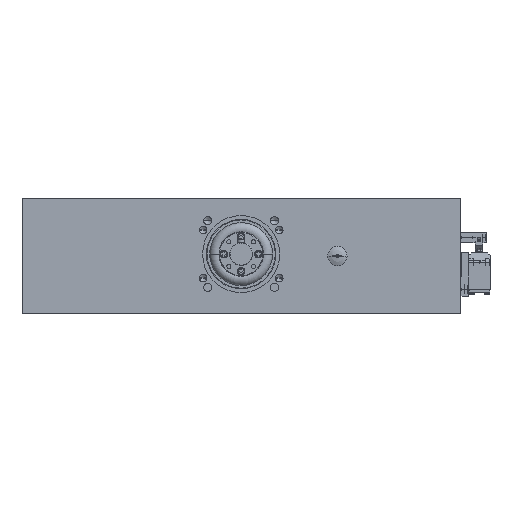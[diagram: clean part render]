
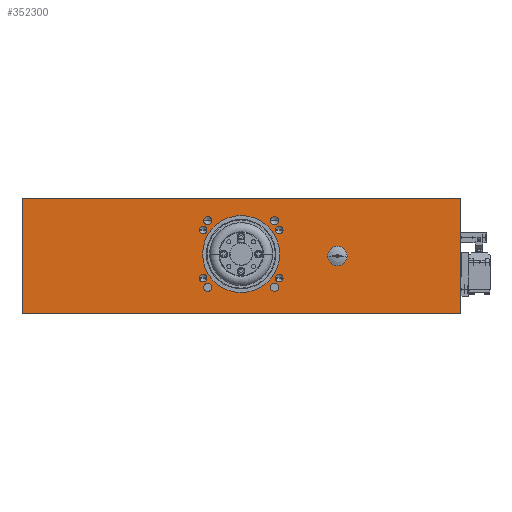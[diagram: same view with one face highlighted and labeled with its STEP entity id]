
A CAD part, front view. The second image highlights one B-rep face of the part: STEP entity #352300.
In plain terms, the highlighted planar face has unit normal (0, -1, 0) as drawn and (-1, 0, 0) by its records, which use the part's own axes.
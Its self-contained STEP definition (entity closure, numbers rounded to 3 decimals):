
#347130=CARTESIAN_POINT('',(-120.,1371.483,-49.828));
#347140=VERTEX_POINT('',#347130);
#347170=CARTESIAN_POINT('',(-120.,1371.483,-132.828));
#347180=DIRECTION('',(0.,0.,1.));
#347190=VECTOR('',#347180,1.);
#347200=LINE('',#347170,#347190);
#347210=CARTESIAN_POINT('',(-120.,1371.483,-169.628));
#347220=VERTEX_POINT('',#347210);
#347230=EDGE_CURVE('',#347220,#347140,#347200,.T.);
#350500=CARTESIAN_POINT('',(-120.,1371.483,-132.828));
#350510=DIRECTION('',(-1.,0.,0.));
#350520=DIRECTION('',(0.,1.,0.));
#350530=AXIS2_PLACEMENT_3D('',#350500,#350510,#350520);
#350540=PLANE('',#350530);
#350550=CARTESIAN_POINT('',(-120.,1004.669,-49.828));
#350560=DIRECTION('',(0.,-1.,0.));
#350570=VECTOR('',#350560,1.);
#350580=LINE('',#350550,#350570);
#350590=CARTESIAN_POINT('',(-120.,916.483,-49.828));
#350600=VERTEX_POINT('',#350590);
#350610=EDGE_CURVE('',#347140,#350600,#350580,.T.);
#350620=ORIENTED_EDGE('',*,*,#350610,.F.);
#350630=CARTESIAN_POINT('',(-120.,916.483,-132.828));
#350640=DIRECTION('',(0.,0.,-1.));
#350650=VECTOR('',#350640,1.);
#350660=LINE('',#350630,#350650);
#350670=CARTESIAN_POINT('',(-120.,916.483,-169.628));
#350680=VERTEX_POINT('',#350670);
#350690=EDGE_CURVE('',#350600,#350680,#350660,.T.);
#350700=ORIENTED_EDGE('',*,*,#350690,.F.);
#350710=CARTESIAN_POINT('',(-120.,1004.669,-169.628));
#350720=DIRECTION('',(0.,-1.,0.));
#350730=VECTOR('',#350720,1.);
#350740=LINE('',#350710,#350730);
#350750=EDGE_CURVE('',#347220,#350680,#350740,.T.);
#350760=ORIENTED_EDGE('',*,*,#350750,.T.);
#350770=ORIENTED_EDGE('',*,*,#347230,.F.);
#350780=EDGE_LOOP('',(#350770,#350760,#350700,#350620));
#350790=FACE_OUTER_BOUND('',#350780,.T.);
#350800=CARTESIAN_POINT('',(-120.,1143.983,-107.828));
#350810=DIRECTION('',(-1.,0.,0.));
#350820=DIRECTION('',(0.,-1.,0.));
#350830=AXIS2_PLACEMENT_3D('',#350800,#350810,#350820);
#350840=CIRCLE('',#350830,40.);
#350850=CARTESIAN_POINT('',(-120.,1103.983,-107.828));
#350860=VERTEX_POINT('',#350850);
#350870=CARTESIAN_POINT('',(-120.,1183.983,-107.828));
#350880=VERTEX_POINT('',#350870);
#350890=EDGE_CURVE('',#350860,#350880,#350840,.T.);
#350900=ORIENTED_EDGE('',*,*,#350890,.F.);
#350910=EDGE_CURVE('',#350880,#350860,#350840,.T.);
#350920=ORIENTED_EDGE('',*,*,#350910,.F.);
#350930=EDGE_LOOP('',(#350920,#350900));
#350940=FACE_BOUND('',#350930,.T.);
#350950=CARTESIAN_POINT('',(-120.,1183.483,-82.828));
#350960=DIRECTION('',(-1.,0.,0.));
#350970=DIRECTION('',(0.,1.,0.));
#350980=AXIS2_PLACEMENT_3D('',#350950,#350960,#350970);
#350990=CIRCLE('',#350980,4.);
#351000=CARTESIAN_POINT('',(-120.,1187.483,-82.828));
#351010=VERTEX_POINT('',#351000);
#351020=CARTESIAN_POINT('',(-120.,1179.483,-82.828));
#351030=VERTEX_POINT('',#351020);
#351040=EDGE_CURVE('',#351010,#351030,#350990,.T.);
#351050=ORIENTED_EDGE('',*,*,#351040,.F.);
#351060=EDGE_CURVE('',#351030,#351010,#350990,.T.);
#351070=ORIENTED_EDGE('',*,*,#351060,.F.);
#351080=EDGE_LOOP('',(#351070,#351050));
#351090=FACE_BOUND('',#351080,.T.);
#351100=CARTESIAN_POINT('',(-120.,1183.483,-132.828));
#351110=DIRECTION('',(-1.,0.,0.));
#351120=DIRECTION('',(0.,1.,0.));
#351130=AXIS2_PLACEMENT_3D('',#351100,#351110,#351120);
#351140=CIRCLE('',#351130,4.);
#351150=CARTESIAN_POINT('',(-120.,1187.483,-132.828));
#351160=VERTEX_POINT('',#351150);
#351170=CARTESIAN_POINT('',(-120.,1179.483,-132.828));
#351180=VERTEX_POINT('',#351170);
#351190=EDGE_CURVE('',#351160,#351180,#351140,.T.);
#351200=ORIENTED_EDGE('',*,*,#351190,.F.);
#351210=EDGE_CURVE('',#351180,#351160,#351140,.T.);
#351220=ORIENTED_EDGE('',*,*,#351210,.F.);
#351230=EDGE_LOOP('',(#351220,#351200));
#351240=FACE_BOUND('',#351230,.T.);
#351250=CARTESIAN_POINT('',(-120.,1104.483,-132.828));
#351260=DIRECTION('',(-1.,0.,0.));
#351270=DIRECTION('',(0.,1.,0.));
#351280=AXIS2_PLACEMENT_3D('',#351250,#351260,#351270);
#351290=CIRCLE('',#351280,4.);
#351300=CARTESIAN_POINT('',(-120.,1108.483,-132.828));
#351310=VERTEX_POINT('',#351300);
#351320=CARTESIAN_POINT('',(-120.,1100.483,-132.828));
#351330=VERTEX_POINT('',#351320);
#351340=EDGE_CURVE('',#351310,#351330,#351290,.T.);
#351350=ORIENTED_EDGE('',*,*,#351340,.F.);
#351360=EDGE_CURVE('',#351330,#351310,#351290,.T.);
#351370=ORIENTED_EDGE('',*,*,#351360,.F.);
#351380=EDGE_LOOP('',(#351370,#351350));
#351390=FACE_BOUND('',#351380,.T.);
#351400=CARTESIAN_POINT('',(-120.,1109.333,-73.178));
#351410=DIRECTION('',(-1.,0.,0.));
#351420=DIRECTION('',(0.,1.,0.));
#351430=AXIS2_PLACEMENT_3D('',#351400,#351410,#351420);
#351440=CIRCLE('',#351430,4.25);
#351450=CARTESIAN_POINT('',(-120.,1113.583,-73.178));
#351460=VERTEX_POINT('',#351450);
#351470=CARTESIAN_POINT('',(-120.,1105.083,-73.178));
#351480=VERTEX_POINT('',#351470);
#351490=EDGE_CURVE('',#351460,#351480,#351440,.T.);
#351500=ORIENTED_EDGE('',*,*,#351490,.F.);
#351510=EDGE_CURVE('',#351480,#351460,#351440,.T.);
#351520=ORIENTED_EDGE('',*,*,#351510,.F.);
#351530=EDGE_LOOP('',(#351520,#351500));
#351540=FACE_BOUND('',#351530,.T.);
#351550=CARTESIAN_POINT('',(-120.,1178.633,-73.178));
#351560=DIRECTION('',(-1.,0.,0.));
#351570=DIRECTION('',(0.,1.,0.));
#351580=AXIS2_PLACEMENT_3D('',#351550,#351560,#351570);
#351590=CIRCLE('',#351580,4.25);
#351600=CARTESIAN_POINT('',(-120.,1182.883,-73.178));
#351610=VERTEX_POINT('',#351600);
#351620=CARTESIAN_POINT('',(-120.,1174.383,-73.178));
#351630=VERTEX_POINT('',#351620);
#351640=EDGE_CURVE('',#351610,#351630,#351590,.T.);
#351650=ORIENTED_EDGE('',*,*,#351640,.F.);
#351660=EDGE_CURVE('',#351630,#351610,#351590,.T.);
#351670=ORIENTED_EDGE('',*,*,#351660,.F.);
#351680=EDGE_LOOP('',(#351670,#351650));
#351690=FACE_BOUND('',#351680,.T.);
#351700=CARTESIAN_POINT('',(-120.,1178.633,-142.478));
#351710=DIRECTION('',(-1.,0.,0.));
#351720=DIRECTION('',(0.,1.,0.));
#351730=AXIS2_PLACEMENT_3D('',#351700,#351710,#351720);
#351740=CIRCLE('',#351730,4.25);
#351750=CARTESIAN_POINT('',(-120.,1182.883,-142.478));
#351760=VERTEX_POINT('',#351750);
#351770=CARTESIAN_POINT('',(-120.,1174.383,-142.478));
#351780=VERTEX_POINT('',#351770);
#351790=EDGE_CURVE('',#351760,#351780,#351740,.T.);
#351800=ORIENTED_EDGE('',*,*,#351790,.F.);
#351810=EDGE_CURVE('',#351780,#351760,#351740,.T.);
#351820=ORIENTED_EDGE('',*,*,#351810,.F.);
#351830=EDGE_LOOP('',(#351820,#351800));
#351840=FACE_BOUND('',#351830,.T.);
#351850=CARTESIAN_POINT('',(-120.,1109.333,-142.478));
#351860=DIRECTION('',(-1.,0.,0.));
#351870=DIRECTION('',(0.,1.,0.));
#351880=AXIS2_PLACEMENT_3D('',#351850,#351860,#351870);
#351890=CIRCLE('',#351880,4.25);
#351900=CARTESIAN_POINT('',(-120.,1113.583,-142.478));
#351910=VERTEX_POINT('',#351900);
#351920=CARTESIAN_POINT('',(-120.,1105.083,-142.478));
#351930=VERTEX_POINT('',#351920);
#351940=EDGE_CURVE('',#351910,#351930,#351890,.T.);
#351950=ORIENTED_EDGE('',*,*,#351940,.F.);
#351960=EDGE_CURVE('',#351930,#351910,#351890,.T.);
#351970=ORIENTED_EDGE('',*,*,#351960,.F.);
#351980=EDGE_LOOP('',(#351970,#351950));
#351990=FACE_BOUND('',#351980,.T.);
#352000=CARTESIAN_POINT('',(-120.,1104.483,-82.828));
#352010=DIRECTION('',(-1.,0.,0.));
#352020=DIRECTION('',(0.,1.,0.));
#352030=AXIS2_PLACEMENT_3D('',#352000,#352010,#352020);
#352040=CIRCLE('',#352030,4.);
#352050=CARTESIAN_POINT('',(-120.,1108.483,-82.828));
#352060=VERTEX_POINT('',#352050);
#352070=CARTESIAN_POINT('',(-120.,1100.483,-82.828));
#352080=VERTEX_POINT('',#352070);
#352090=EDGE_CURVE('',#352060,#352080,#352040,.T.);
#352100=ORIENTED_EDGE('',*,*,#352090,.F.);
#352110=EDGE_CURVE('',#352080,#352060,#352040,.T.);
#352120=ORIENTED_EDGE('',*,*,#352110,.F.);
#352130=EDGE_LOOP('',(#352120,#352100));
#352140=FACE_BOUND('',#352130,.T.);
#352150=CARTESIAN_POINT('',(-120.,1043.983,-109.828));
#352160=DIRECTION('',(-1.,0.,0.));
#352170=DIRECTION('',(0.,-1.,0.));
#352180=AXIS2_PLACEMENT_3D('',#352150,#352160,#352170);
#352190=CIRCLE('',#352180,10.);
#352200=CARTESIAN_POINT('',(-120.,1033.983,-109.828));
#352210=VERTEX_POINT('',#352200);
#352220=CARTESIAN_POINT('',(-120.,1053.983,-109.828));
#352230=VERTEX_POINT('',#352220);
#352240=EDGE_CURVE('',#352210,#352230,#352190,.T.);
#352250=ORIENTED_EDGE('',*,*,#352240,.F.);
#352260=EDGE_CURVE('',#352230,#352210,#352190,.T.);
#352270=ORIENTED_EDGE('',*,*,#352260,.F.);
#352280=EDGE_LOOP('',(#352270,#352250));
#352290=FACE_BOUND('',#352280,.T.);
#352300=ADVANCED_FACE('',(#350790,#350940,#351090,#351240,#351390,
#351540,#351690,#351840,#351990,#352140,#352290),#350540,.T.);
